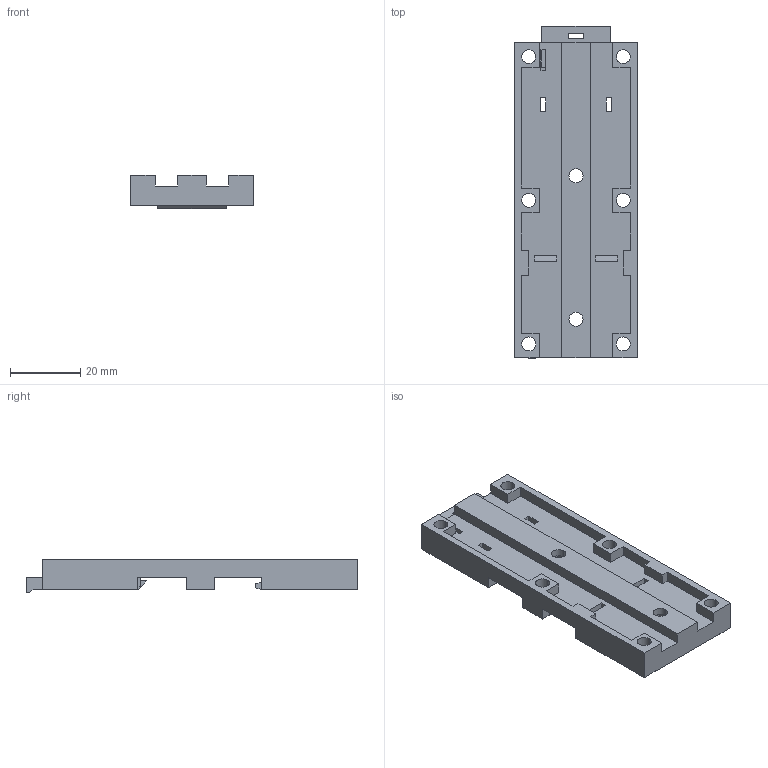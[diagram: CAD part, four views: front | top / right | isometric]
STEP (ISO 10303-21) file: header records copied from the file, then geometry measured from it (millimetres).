
FILE_DESCRIPTION((''),'2;1');
FILE_NAME('0000277371','2013-08-01T',('smar'),('Sierra Wireless'),'PRO/ENGINEER BY PARAMETRIC TECHNOLOGY CORPORATION, 2011180','PRO/ENGINEER BY PARAMETRIC TECHNOLOGY CORPORATION, 2011180','');
FILE_SCHEMA(('AUTOMOTIVE_DESIGN { 1 0 10303 214 1 1 1 1 }'));
Length unit declared in the file: millimetre
Products named in the file (1): 0000277371
Bounding box: 35 x 94.75 x 9.6 mm (x, y, z)
Volume: 12974.4 mm3; surface area: 12714.3 mm2
Topology: 1 solids, 1 shells, 363 faces, 923 edges, 549 vertices
Faces by surface type: plane 201, torus 132, cylinder 18, cone 12
Entity records: 13448 total; most frequent: DIRECTION 1977, ORIENTED_EDGE 1846, CARTESIAN_POINT 1837, EDGE_CURVE 923, AXIS2_PLACEMENT_3D 691, VECTOR 595, LINE 595, VERTEX_POINT 549
